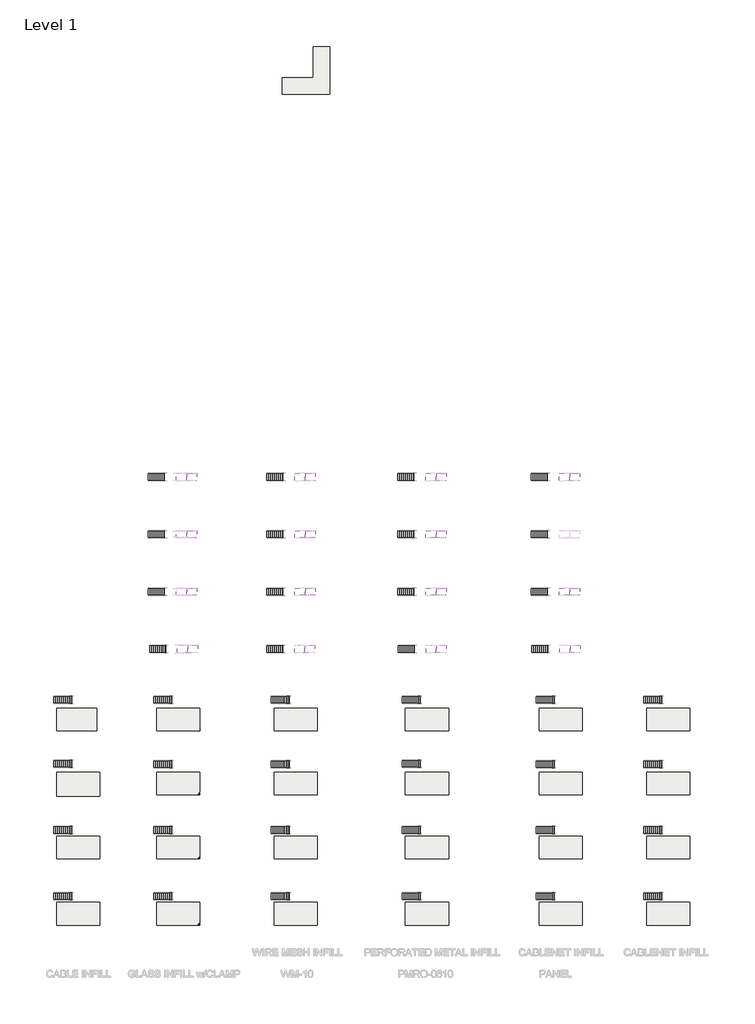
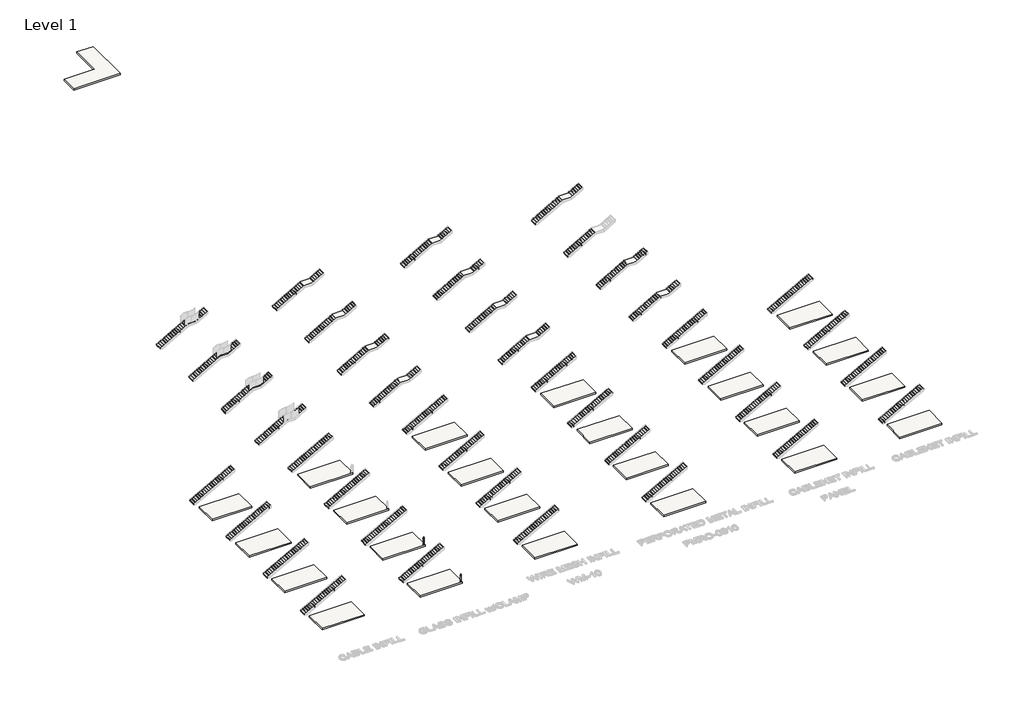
# One storey, part 1 of 8: 55 stair flights, 40 slabs, 2 railings.
"""IFC4 building model written with IfcOpenShell, lengths in millimetres."""

from ifc_helpers import new_model, si_unit, frame, origin, place, context, project, spatial, polyline, outline, extrude, faceted_brep, transform, mapped, element, save
from components import baluster_corner_panel_viva_standard_glass_eac9cc2a, baluster_corner_panel_viva_standard_glass_1654cc0c, baluster_corner_panel_viva_standard_glass_794ac712, baluster_corner_panel_viva_standard_glass_b3a1ee21, non_monolithic_landing_5bc720da, non_monolithic_landing_dd0db0fe, non_monolithic_landing_8fa44552, non_monolithic_landing_72148590, non_monolithic_landing_683afdd3, non_monolithic_landing_0306a4b2, non_monolithic_landing_b3eb6da1, non_monolithic_landing_67251964, non_monolithic_landing_ba321032, non_monolithic_landing_3c6b9b6c, non_monolithic_landing_cbc1462f, non_monolithic_landing_48cf3190, non_monolithic_landing_b9d26340, non_monolithic_landing_1514b0e3, non_monolithic_landing_d71ae8cf, stair_flight_867b6349, stair_flight_1623d5a6, stair_flight_93a57281, stair_flight_6248b28b, stair_flight_46d78ab3, stair_flight_bb475c89, stair_flight_662a255a, stair_flight_8d589d51, stair_flight_bfdabed0, stair_flight_90f3d1f1, stair_flight_547852eb, stair_flight_cebf5503, stair_flight_e243f775, stair_flight_977ebf85, stair_flight_2b8314ce, stair_flight_4459294c, stair_flight_17b7475d, stair_flight_253f1085, stair_flight_9bb0e321, stair_flight_100dd306, stair_flight_f3193430, stair_flight_ff462502, stair_flight_2fc1befa, stair_flight_8eaf772b, stair_flight_0474ce6d, stair_flight_b9e693a1, stair_flight_8b4d4a7e, stair_flight_51ef5601, stair_flight_70c68906, stair_flight_c7e7006c, stair_flight_5e9071b4, stair_flight_8c2f85dd, stair_flight_e91a5aed, stair_flight_12b60d69, stair_flight_54802832, stair_flight_86cf1904, stair_flight_2cf32423, stair_flight_7b8c4553, stair_flight_10bc530e, stair_flight_4cdf5e1c, stair_flight_d92b2248, stair_flight_d1960923, stair_flight_d3d5d3fa, stair_flight_b03ca2e3, stair_flight_ce59e505, stair_flight_fd0f363b, stair_flight_3b0c9d7e, stair_flight_b749c277, stair_flight_f96d4b74, stair_flight_75746dea, stair_flight_00fe024d, stair_flight_89541100, stair_flight_480f66c3, stair_flight_d066f2ad, stair_flight_4a6b0129

model = new_model("IFC4")

# Units and contexts
model_context = context("Model", 3, world=origin())
ifc_project = project(units=[si_unit("LENGTHUNIT", "METRE", prefix="MILLI")], contexts=[model_context])

# Site, building, storey
site = spatial("IfcSite", under=ifc_project)
building = spatial("IfcBuilding", under=site)
storey = spatial("IfcBuildingStorey", under=building, Name="Level 1", Elevation=0.0)

# Railings
placement = place(None, origin())
baluster_corner_panel_viva_standard_glass_shape = baluster_corner_panel_viva_standard_glass_eac9cc2a(model_context)
baluster_corner_panel_viva_standard_glass_2_shape = baluster_corner_panel_viva_standard_glass_1654cc0c(model_context)
element("IfcRailing", 1, ObjectType="Baluster-Corner-Panel-VIVA : Standard_Glass", at=placement, inside=storey, context=model_context, shape_type="MappedRepresentation", body=[
    mapped(baluster_corner_panel_viva_standard_glass_shape, transform((4037.3996558, -13274.5021935, 0.0), x_axis=(1.0, 0.0, 0.0), y_axis=(0.0, 1.0, 0.0), z_axis=(0.0, 0.0, 1.0))),
    mapped(baluster_corner_panel_viva_standard_glass_2_shape, transform((4037.3996558, -13274.5021935, 0.0), x_axis=(1.0, 0.0, 0.0), y_axis=(0.0, 1.0, 0.0), z_axis=(0.0, 0.0, 1.0))),
])
baluster_corner_panel_viva_standard_glass_3_shape = baluster_corner_panel_viva_standard_glass_794ac712(model_context)
baluster_corner_panel_viva_standard_glass_4_shape = baluster_corner_panel_viva_standard_glass_b3a1ee21(model_context)
element("IfcRailing", 2, ObjectType="Baluster-Corner-Panel-VIVA : Standard_Glass", at=placement, inside=storey, context=model_context, shape_type="MappedRepresentation", body=[
    mapped(baluster_corner_panel_viva_standard_glass_3_shape, transform((4037.3996558, -4841.7021935, 0.0), x_axis=(1.0, 0.0, 0.0), y_axis=(0.0, 1.0, 0.0), z_axis=(0.0, 0.0, 1.0))),
    mapped(baluster_corner_panel_viva_standard_glass_4_shape, transform((4037.3996558, -4841.7021935, 0.0), x_axis=(1.0, 0.0, 0.0), y_axis=(0.0, 1.0, 0.0), z_axis=(0.0, 0.0, 1.0))),
])

# Slabs
element("IfcSlab", 3, ObjectType="Generic - 7 3/4\"", at=placement, inside=storey, context=model_context, shape_type="Brep", body=[
    faceted_brep([(-9013.1757228, 11417.2188065, -196.088), (-14150.5822235, 11417.2188065, -196.088), (-14150.5822235, 14291.6143615, -196.088), (-9013.1757228, 14291.6143615, -196.088), (-9013.1757228, 11417.2188065, 0.0), (-9013.1757228, 14291.6143615, 0.0), (-14150.5822235, 14291.6143615, 0.0), (-14150.5822235, 11417.2188065, 0.0)], [[[0, 1, 2, 3]], [[4, 5, 6, 7]], [[1, 0, 4, 7]], [[3, 2, 6, 5]], [[0, 3, 5, 4]], [[2, 1, 7, 6]]]),
])
element("IfcSlab", 4, ObjectType="Generic - 7 3/4\"", at=placement, inside=storey, context=model_context, shape_type="Brep", body=[
    faceted_brep([(4137.4177765, 11417.2188065, -196.088), (-1348.9822235, 11417.2188065, -196.088), (-1348.9822235, 14312.8188065, -196.088), (4137.4177765, 14312.8188065, -196.088), (4137.4177765, 11417.2188065, 0.0), (4137.4177765, 14312.8188065, 0.0), (-1348.9822235, 14312.8188065, 0.0), (-1348.9822235, 11417.2188065, 0.0)], [[[0, 1, 2, 3]], [[4, 5, 6, 7]], [[1, 0, 4, 7]], [[3, 2, 6, 5]], [[0, 3, 5, 4]], [[2, 1, 7, 6]]]),
])
element("IfcSlab", 5, ObjectType="Generic - 7 3/4\"", at=placement, inside=storey, context=model_context, shape_type="Brep", body=[
    faceted_brep([(19072.6177765, 11417.2188065, -196.088), (13586.2177765, 11417.2188065, -196.088), (13586.2177765, 14312.8188065, -196.088), (19072.6177765, 14312.8188065, -196.088), (19072.6177765, 11417.2188065, 0.0), (19072.6177765, 14312.8188065, 0.0), (13586.2177765, 14312.8188065, 0.0), (13586.2177765, 11417.2188065, 0.0)], [[[0, 1, 2, 3]], [[4, 5, 6, 7]], [[1, 0, 4, 7]], [[3, 2, 6, 5]], [[0, 3, 5, 4]], [[2, 1, 7, 6]]]),
])
element("IfcSlab", 6, ObjectType="Generic - 7 3/4\"", at=placement, inside=storey, context=model_context, shape_type="Brep", body=[
    faceted_brep([(35836.6177765, 11417.2188065, -196.088), (30350.2177765, 11417.2188065, -196.088), (30350.2177765, 14312.8188065, -196.088), (35836.6177765, 14312.8188065, -196.088), (35836.6177765, 11417.2188065, 0.0), (35836.6177765, 14312.8188065, 0.0), (30350.2177765, 14312.8188065, 0.0), (30350.2177765, 11417.2188065, 0.0)], [[[0, 1, 2, 3]], [[4, 5, 6, 7]], [[1, 0, 4, 7]], [[3, 2, 6, 5]], [[0, 3, 5, 4]], [[2, 1, 7, 6]]]),
])
element("IfcSlab", 7, ObjectType="Generic - 7 3/4\"", at=placement, inside=storey, context=model_context, shape_type="Brep", body=[
    faceted_brep([(52905.4177765, 11417.2188065, -196.088), (47419.0177765, 11417.2188065, -196.088), (47419.0177765, 14312.8188065, -196.088), (52905.4177765, 14312.8188065, -196.088), (52905.4177765, 11417.2188065, 0.0), (52905.4177765, 14312.8188065, 0.0), (47419.0177765, 14312.8188065, 0.0), (47419.0177765, 11417.2188065, 0.0)], [[[0, 1, 2, 3]], [[4, 5, 6, 7]], [[1, 0, 4, 7]], [[3, 2, 6, 5]], [[0, 3, 5, 4]], [[2, 1, 7, 6]]]),
])
element("IfcSlab", 8, ObjectType="Generic - 7 3/4\"", at=placement, inside=storey, context=model_context, shape_type="Brep", body=[
    faceted_brep([(66621.4177765, 11417.2188065, -196.088), (61135.0177765, 11417.2188065, -196.088), (61135.0177765, 14312.8188065, -196.088), (66621.4177765, 14312.8188065, -196.088), (66621.4177765, 11417.2188065, 0.0), (66621.4177765, 14312.8188065, 0.0), (61135.0177765, 14312.8188065, 0.0), (61135.0177765, 11417.2188065, 0.0)], [[[0, 1, 2, 3]], [[4, 5, 6, 7]], [[1, 0, 4, 7]], [[3, 2, 6, 5]], [[0, 3, 5, 4]], [[2, 1, 7, 6]]]),
])
element("IfcSlab", 9, ObjectType="Generic - 7 3/4\"", at=placement, inside=storey, context=model_context, shape_type="Brep", body=[
    faceted_brep([(-8664.1822235, 3086.0188065, -196.088), (-14150.5822235, 3086.0188065, -196.088), (-14150.5822235, 6134.0188065, -196.088), (-8664.1822235, 6134.0188065, -196.088), (-8664.1822235, 3086.0188065, 0.0), (-8664.1822235, 6134.0188065, 0.0), (-14150.5822235, 6134.0188065, 0.0), (-14150.5822235, 3086.0188065, 0.0)], [[[0, 1, 2, 3]], [[4, 5, 6, 7]], [[1, 0, 4, 7]], [[3, 2, 6, 5]], [[0, 3, 5, 4]], [[2, 1, 7, 6]]]),
])
element("IfcSlab", 10, ObjectType="Generic - 7 3/4\"", at=placement, inside=storey, context=model_context, shape_type="Brep", body=[
    faceted_brep([(4137.4177765, 3238.4188065, -196.088), (-1348.9822235, 3238.4188065, -196.088), (-1348.9822235, 6134.0188065, -196.088), (4137.4177765, 6134.0188065, -196.088), (4137.4177765, 3238.4188065, 0.0), (4137.4177765, 6134.0188065, 0.0), (-1348.9822235, 6134.0188065, 0.0), (-1348.9822235, 3238.4188065, 0.0)], [[[0, 1, 2, 3]], [[4, 5, 6, 7]], [[1, 0, 4, 7]], [[3, 2, 6, 5]], [[0, 3, 5, 4]], [[2, 1, 7, 6]]]),
])
element("IfcSlab", 11, ObjectType="Generic - 7 3/4\"", at=placement, inside=storey, context=model_context, shape_type="Brep", body=[
    faceted_brep([(19072.6177765, 3238.4188065, -196.088), (13586.2177765, 3238.4188065, -196.088), (13586.2177765, 6134.0188065, -196.088), (19072.6177765, 6134.0188065, -196.088), (19072.6177765, 3238.4188065, 0.0), (19072.6177765, 6134.0188065, 0.0), (13586.2177765, 6134.0188065, 0.0), (13586.2177765, 3238.4188065, 0.0)], [[[0, 1, 2, 3]], [[4, 5, 6, 7]], [[1, 0, 4, 7]], [[3, 2, 6, 5]], [[0, 3, 5, 4]], [[2, 1, 7, 6]]]),
])
element("IfcSlab", 12, ObjectType="Generic - 7 3/4\"", at=placement, inside=storey, context=model_context, shape_type="Brep", body=[
    faceted_brep([(35836.6177765, 3238.4188065, -196.088), (30350.2177765, 3238.4188065, -196.088), (30350.2177765, 6134.0188065, -196.088), (35836.6177765, 6134.0188065, -196.088), (35836.6177765, 3238.4188065, 0.0), (35836.6177765, 6134.0188065, 0.0), (30350.2177765, 6134.0188065, 0.0), (30350.2177765, 3238.4188065, 0.0)], [[[0, 1, 2, 3]], [[4, 5, 6, 7]], [[1, 0, 4, 7]], [[3, 2, 6, 5]], [[0, 3, 5, 4]], [[2, 1, 7, 6]]]),
])
element("IfcSlab", 13, ObjectType="Generic - 7 3/4\"", at=placement, inside=storey, context=model_context, shape_type="Brep", body=[
    faceted_brep([(52905.4177765, 3238.4188065, -196.088), (47419.0177765, 3238.4188065, -196.088), (47419.0177765, 6134.0188065, -196.088), (52905.4177765, 6134.0188065, -196.088), (52905.4177765, 3238.4188065, 0.0), (52905.4177765, 6134.0188065, 0.0), (47419.0177765, 6134.0188065, 0.0), (47419.0177765, 3238.4188065, 0.0)], [[[0, 1, 2, 3]], [[4, 5, 6, 7]], [[1, 0, 4, 7]], [[3, 2, 6, 5]], [[0, 3, 5, 4]], [[2, 1, 7, 6]]]),
])
element("IfcSlab", 14, ObjectType="Generic - 7 3/4\"", at=placement, inside=storey, context=model_context, shape_type="Brep", body=[
    faceted_brep([(66621.4177765, 3238.4188065, -196.088), (61135.0177765, 3238.4188065, -196.088), (61135.0177765, 6134.0188065, -196.088), (66621.4177765, 6134.0188065, -196.088), (66621.4177765, 3238.4188065, 0.0), (66621.4177765, 6134.0188065, 0.0), (61135.0177765, 6134.0188065, 0.0), (61135.0177765, 3238.4188065, 0.0)], [[[0, 1, 2, 3]], [[4, 5, 6, 7]], [[1, 0, 4, 7]], [[3, 2, 6, 5]], [[0, 3, 5, 4]], [[2, 1, 7, 6]]]),
])
element("IfcSlab", 15, ObjectType="Generic - 7 3/4\"", at=placement, inside=storey, context=model_context, shape_type="Brep", body=[
    faceted_brep([(66621.4177765, -13373.1811935, -196.088), (61135.0177765, -13373.1811935, -196.088), (61135.0177765, -10477.5811935, -196.088), (66621.4177765, -10477.5811935, -196.088), (66621.4177765, -13373.1811935, 0.0), (66621.4177765, -10477.5811935, 0.0), (61135.0177765, -10477.5811935, 0.0), (61135.0177765, -13373.1811935, 0.0)], [[[0, 1, 2, 3]], [[4, 5, 6, 7]], [[1, 0, 4, 7]], [[3, 2, 6, 5]], [[0, 3, 5, 4]], [[2, 1, 7, 6]]]),
])
element("IfcSlab", 16, ObjectType="Generic - 7 3/4\"", at=placement, inside=storey, context=model_context, shape_type="Brep", body=[
    faceted_brep([(-8664.1822235, -4940.3811935, -196.088), (-14150.5822235, -4940.3811935, -196.088), (-14150.5822235, -2044.7811935, -196.088), (-8664.1822235, -2044.7811935, -196.088), (-8664.1822235, -4940.3811935, 0.0), (-8664.1822235, -2044.7811935, 0.0), (-14150.5822235, -2044.7811935, 0.0), (-14150.5822235, -4940.3811935, 0.0)], [[[0, 1, 2, 3]], [[4, 5, 6, 7]], [[1, 0, 4, 7]], [[3, 2, 6, 5]], [[0, 3, 5, 4]], [[2, 1, 7, 6]]]),
])
element("IfcSlab", 17, ObjectType="Generic - 7 3/4\"", at=placement, inside=storey, context=model_context, shape_type="Brep", body=[
    faceted_brep([(4137.4177765, -4940.3811935, -196.088), (-1348.9822235, -4940.3811935, -196.088), (-1348.9822235, -2044.7811935, -196.088), (4137.4177765, -2044.7811935, -196.088), (4137.4177765, -4940.3811935, 0.0), (4137.4177765, -2044.7811935, 0.0), (-1348.9822235, -2044.7811935, 0.0), (-1348.9822235, -4940.3811935, 0.0)], [[[0, 1, 2, 3]], [[4, 5, 6, 7]], [[1, 0, 4, 7]], [[3, 2, 6, 5]], [[0, 3, 5, 4]], [[2, 1, 7, 6]]]),
])
element("IfcSlab", 18, ObjectType="Generic - 7 3/4\"", at=placement, inside=storey, context=model_context, shape_type="Brep", body=[
    faceted_brep([(19072.6177765, -4940.3811935, -196.088), (13586.2177765, -4940.3811935, -196.088), (13586.2177765, -2044.7811935, -196.088), (19072.6177765, -2044.7811935, -196.088), (19072.6177765, -4940.3811935, 0.0), (19072.6177765, -2044.7811935, 0.0), (13586.2177765, -2044.7811935, 0.0), (13586.2177765, -4940.3811935, 0.0)], [[[0, 1, 2, 3]], [[4, 5, 6, 7]], [[1, 0, 4, 7]], [[3, 2, 6, 5]], [[0, 3, 5, 4]], [[2, 1, 7, 6]]]),
])
element("IfcSlab", 19, ObjectType="Generic - 7 3/4\"", at=placement, inside=storey, context=model_context, shape_type="Brep", body=[
    faceted_brep([(35836.6177765, -4940.3811935, -196.088), (30350.2177765, -4940.3811935, -196.088), (30350.2177765, -2044.7811935, -196.088), (35836.6177765, -2044.7811935, -196.088), (35836.6177765, -4940.3811935, 0.0), (35836.6177765, -2044.7811935, 0.0), (30350.2177765, -2044.7811935, 0.0), (30350.2177765, -4940.3811935, 0.0)], [[[0, 1, 2, 3]], [[4, 5, 6, 7]], [[1, 0, 4, 7]], [[3, 2, 6, 5]], [[0, 3, 5, 4]], [[2, 1, 7, 6]]]),
])
element("IfcSlab", 20, ObjectType="Generic - 7 3/4\"", at=placement, inside=storey, context=model_context, shape_type="Brep", body=[
    faceted_brep([(52905.4177765, -4940.3811935, -196.088), (47419.0177765, -4940.3811935, -196.088), (47419.0177765, -2044.7811935, -196.088), (52905.4177765, -2044.7811935, -196.088), (52905.4177765, -4940.3811935, 0.0), (52905.4177765, -2044.7811935, 0.0), (47419.0177765, -2044.7811935, 0.0), (47419.0177765, -4940.3811935, 0.0)], [[[0, 1, 2, 3]], [[4, 5, 6, 7]], [[1, 0, 4, 7]], [[3, 2, 6, 5]], [[0, 3, 5, 4]], [[2, 1, 7, 6]]]),
])
element("IfcSlab", 21, ObjectType="Generic - 7 3/4\"", at=placement, inside=storey, context=model_context, shape_type="Brep", body=[
    faceted_brep([(66621.4177765, -4940.3811935, -196.088), (61135.0177765, -4940.3811935, -196.088), (61135.0177765, -2044.7811935, -196.088), (66621.4177765, -2044.7811935, -196.088), (66621.4177765, -4940.3811935, 0.0), (66621.4177765, -2044.7811935, 0.0), (61135.0177765, -2044.7811935, 0.0), (61135.0177765, -4940.3811935, 0.0)], [[[0, 1, 2, 3]], [[4, 5, 6, 7]], [[1, 0, 4, 7]], [[3, 2, 6, 5]], [[0, 3, 5, 4]], [[2, 1, 7, 6]]]),
])
element("IfcSlab", 22, ObjectType="Generic - 7 3/4\"", at=placement, inside=storey, context=model_context, shape_type="SweptSolid", body=[
    extrude(outline(polyline([(-8664.1822235, -13373.1811935), (-14150.5822235, -13373.1811935), (-14150.5822235, -10477.5811935), (-8664.1822235, -10477.5811935), (-8664.1822235, -13373.1811935)])), frame((0.0, 0.0, -196.088), z_axis=(0.0, 0.0, 1.0), x_axis=(1.0, 0.0, 0.0)), (0.0, 0.0, 1.0), 196.088),
])
element("IfcSlab", 23, ObjectType="Generic - 7 3/4\"", at=placement, inside=storey, context=model_context, shape_type="Brep", body=[
    faceted_brep([(4137.4177765, -13373.1811935, -196.088), (-1348.9822235, -13373.1811935, -196.088), (-1348.9822235, -10477.5811935, -196.088), (4137.4177765, -10477.5811935, -196.088), (4137.4177765, -13373.1811935, 0.0), (4137.4177765, -10477.5811935, 0.0), (-1348.9822235, -10477.5811935, 0.0), (-1348.9822235, -13373.1811935, 0.0)], [[[0, 1, 2, 3]], [[4, 5, 6, 7]], [[1, 0, 4, 7]], [[3, 2, 6, 5]], [[0, 3, 5, 4]], [[2, 1, 7, 6]]]),
])
element("IfcSlab", 24, ObjectType="Generic - 7 3/4\"", at=placement, inside=storey, context=model_context, shape_type="Brep", body=[
    faceted_brep([(19072.6177765, -13373.1811935, -196.088), (13586.2177765, -13373.1811935, -196.088), (13586.2177765, -10477.5811935, -196.088), (19072.6177765, -10477.5811935, -196.088), (19072.6177765, -13373.1811935, 0.0), (19072.6177765, -10477.5811935, 0.0), (13586.2177765, -10477.5811935, 0.0), (13586.2177765, -13373.1811935, 0.0)], [[[0, 1, 2, 3]], [[4, 5, 6, 7]], [[1, 0, 4, 7]], [[3, 2, 6, 5]], [[0, 3, 5, 4]], [[2, 1, 7, 6]]]),
])
element("IfcSlab", 25, ObjectType="Generic - 7 3/4\"", at=placement, inside=storey, context=model_context, shape_type="Brep", body=[
    faceted_brep([(35836.6177765, -13373.1811935, -196.088), (30350.2177765, -13373.1811935, -196.088), (30350.2177765, -10477.5811935, -196.088), (35836.6177765, -10477.5811935, -196.088), (35836.6177765, -13373.1811935, 0.0), (35836.6177765, -10477.5811935, 0.0), (30350.2177765, -10477.5811935, 0.0), (30350.2177765, -13373.1811935, 0.0)], [[[0, 1, 2, 3]], [[4, 5, 6, 7]], [[1, 0, 4, 7]], [[3, 2, 6, 5]], [[0, 3, 5, 4]], [[2, 1, 7, 6]]]),
])
element("IfcSlab", 26, ObjectType="Generic - 7 3/4\"", at=placement, inside=storey, context=model_context, shape_type="Brep", body=[
    faceted_brep([(52905.4177765, -13373.1811935, -196.088), (47419.0177765, -13373.1811935, -196.088), (47419.0177765, -10477.5811935, -196.088), (52905.4177765, -10477.5811935, -196.088), (52905.4177765, -13373.1811935, 0.0), (52905.4177765, -10477.5811935, 0.0), (47419.0177765, -10477.5811935, 0.0), (47419.0177765, -13373.1811935, 0.0)], [[[0, 1, 2, 3]], [[4, 5, 6, 7]], [[1, 0, 4, 7]], [[3, 2, 6, 5]], [[0, 3, 5, 4]], [[2, 1, 7, 6]]]),
])
element("IfcSlab", 27, ObjectType="Generic - 7 3/4\"", at=placement, inside=storey, context=model_context, shape_type="Brep", body=[
    faceted_brep([(20719.8932676, 98684.7462248, -196.088), (20719.8932676, 92588.7462248, -196.088), (14649.2932676, 92588.7462248, -196.088), (14649.2932676, 94722.3462248, -196.088), (18586.2932676, 94722.3462248, -196.088), (18586.2932676, 98684.7462248, -196.088), (20719.8932676, 98684.7462248, 0.0), (18586.2932676, 98684.7462248, 0.0), (18586.2932676, 94722.3462248, 0.0), (14649.2932676, 94722.3462248, 0.0), (14649.2932676, 92588.7462248, 0.0), (20719.8932676, 92588.7462248, 0.0)], [[[0, 1, 2, 3, 4, 5]], [[6, 7, 8, 9, 10, 11]], [[1, 0, 6, 11]], [[2, 1, 11, 10]], [[3, 2, 10, 9]], [[4, 3, 9, 8]], [[5, 4, 8, 7]], [[0, 5, 7, 6]]]),
])
non_monolithic_landing_shape = non_monolithic_landing_5bc720da(model_context)
element("IfcSlab", 28, ObjectType="Non-Monolithic Landing", at=placement, inside=storey, context=model_context, shape_type="MappedRepresentation", body=[
    mapped(non_monolithic_landing_shape, transform((0.0, 0.0, 0.0), x_axis=(1.0, 0.0, 0.0), y_axis=(0.0, 1.0, 0.0), z_axis=(0.0, 0.0, 1.0))),
])
non_monolithic_landing_2_shape = non_monolithic_landing_dd0db0fe(model_context)
element("IfcSlab", 29, ObjectType="Non-Monolithic Landing", at=placement, inside=storey, context=model_context, shape_type="MappedRepresentation", body=[
    mapped(non_monolithic_landing_2_shape, transform((0.0, 0.0, 0.0), x_axis=(1.0, 0.0, 0.0), y_axis=(0.0, 1.0, 0.0), z_axis=(0.0, 0.0, 1.0))),
])
non_monolithic_landing_3_shape = non_monolithic_landing_8fa44552(model_context)
element("IfcSlab", 30, ObjectType="Non-Monolithic Landing", at=placement, inside=storey, context=model_context, shape_type="MappedRepresentation", body=[
    mapped(non_monolithic_landing_3_shape, transform((0.0, 0.0, 0.0), x_axis=(1.0, 0.0, 0.0), y_axis=(0.0, 1.0, 0.0), z_axis=(0.0, 0.0, 1.0))),
])
non_monolithic_landing_4_shape = non_monolithic_landing_72148590(model_context)
element("IfcSlab", 31, ObjectType="Non-Monolithic Landing", at=placement, inside=storey, context=model_context, shape_type="MappedRepresentation", body=[
    mapped(non_monolithic_landing_4_shape, transform((0.0, 0.0, 0.0), x_axis=(1.0, 0.0, 0.0), y_axis=(0.0, 1.0, 0.0), z_axis=(0.0, 0.0, 1.0))),
])
non_monolithic_landing_5_shape = non_monolithic_landing_683afdd3(model_context)
element("IfcSlab", 32, ObjectType="Non-Monolithic Landing", at=placement, inside=storey, context=model_context, shape_type="MappedRepresentation", body=[
    mapped(non_monolithic_landing_5_shape, transform((0.0, 0.0, 0.0), x_axis=(1.0, 0.0, 0.0), y_axis=(0.0, 1.0, 0.0), z_axis=(0.0, 0.0, 1.0))),
])
non_monolithic_landing_6_shape = non_monolithic_landing_0306a4b2(model_context)
element("IfcSlab", 33, ObjectType="Non-Monolithic Landing", at=placement, inside=storey, context=model_context, shape_type="MappedRepresentation", body=[
    mapped(non_monolithic_landing_6_shape, transform((0.0, 0.0, 0.0), x_axis=(1.0, 0.0, 0.0), y_axis=(0.0, 1.0, 0.0), z_axis=(0.0, 0.0, 1.0))),
])
non_monolithic_landing_7_shape = non_monolithic_landing_b3eb6da1(model_context)
element("IfcSlab", 34, ObjectType="Non-Monolithic Landing", at=placement, inside=storey, context=model_context, shape_type="MappedRepresentation", body=[
    mapped(non_monolithic_landing_7_shape, transform((0.0, 0.0, 0.0), x_axis=(1.0, 0.0, 0.0), y_axis=(0.0, 1.0, 0.0), z_axis=(0.0, 0.0, 1.0))),
])
non_monolithic_landing_8_shape = non_monolithic_landing_67251964(model_context)
element("IfcSlab", 35, ObjectType="Non-Monolithic Landing", at=placement, inside=storey, context=model_context, shape_type="MappedRepresentation", body=[
    mapped(non_monolithic_landing_8_shape, transform((0.0, 0.0, 0.0), x_axis=(1.0, 0.0, 0.0), y_axis=(0.0, 1.0, 0.0), z_axis=(0.0, 0.0, 1.0))),
])
non_monolithic_landing_9_shape = non_monolithic_landing_ba321032(model_context)
element("IfcSlab", 36, ObjectType="Non-Monolithic Landing", at=placement, inside=storey, context=model_context, shape_type="MappedRepresentation", body=[
    mapped(non_monolithic_landing_9_shape, transform((0.0, 0.0, 0.0), x_axis=(1.0, 0.0, 0.0), y_axis=(0.0, 1.0, 0.0), z_axis=(0.0, 0.0, 1.0))),
])
non_monolithic_landing_10_shape = non_monolithic_landing_3c6b9b6c(model_context)
element("IfcSlab", 37, ObjectType="Non-Monolithic Landing", at=placement, inside=storey, context=model_context, shape_type="MappedRepresentation", body=[
    mapped(non_monolithic_landing_10_shape, transform((0.0, 0.0, 0.0), x_axis=(1.0, 0.0, 0.0), y_axis=(0.0, 1.0, 0.0), z_axis=(0.0, 0.0, 1.0))),
])
non_monolithic_landing_11_shape = non_monolithic_landing_cbc1462f(model_context)
element("IfcSlab", 38, ObjectType="Non-Monolithic Landing", at=placement, inside=storey, context=model_context, shape_type="MappedRepresentation", body=[
    mapped(non_monolithic_landing_11_shape, transform((0.0, 0.0, 0.0), x_axis=(1.0, 0.0, 0.0), y_axis=(0.0, 1.0, 0.0), z_axis=(0.0, 0.0, 1.0))),
])
non_monolithic_landing_12_shape = non_monolithic_landing_48cf3190(model_context)
element("IfcSlab", 39, ObjectType="Non-Monolithic Landing", at=placement, inside=storey, context=model_context, shape_type="MappedRepresentation", body=[
    mapped(non_monolithic_landing_12_shape, transform((0.0, 0.0, 0.0), x_axis=(1.0, 0.0, 0.0), y_axis=(0.0, 1.0, 0.0), z_axis=(0.0, 0.0, 1.0))),
])
non_monolithic_landing_13_shape = non_monolithic_landing_b9d26340(model_context)
element("IfcSlab", 40, ObjectType="Non-Monolithic Landing", at=placement, inside=storey, context=model_context, shape_type="MappedRepresentation", body=[
    mapped(non_monolithic_landing_13_shape, transform((0.0, 0.0, 0.0), x_axis=(1.0, 0.0, 0.0), y_axis=(0.0, 1.0, 0.0), z_axis=(0.0, 0.0, 1.0))),
])
non_monolithic_landing_14_shape = non_monolithic_landing_1514b0e3(model_context)
element("IfcSlab", 41, ObjectType="Non-Monolithic Landing", at=placement, inside=storey, context=model_context, shape_type="MappedRepresentation", body=[
    mapped(non_monolithic_landing_14_shape, transform((0.0, 0.0, 0.0), x_axis=(1.0, 0.0, 0.0), y_axis=(0.0, 1.0, 0.0), z_axis=(0.0, 0.0, 1.0))),
])
non_monolithic_landing_15_shape = non_monolithic_landing_d71ae8cf(model_context)
element("IfcSlab", 42, ObjectType="Non-Monolithic Landing", at=placement, inside=storey, context=model_context, shape_type="MappedRepresentation", body=[
    mapped(non_monolithic_landing_15_shape, transform((0.0, 0.0, 0.0), x_axis=(1.0, 0.0, 0.0), y_axis=(0.0, 1.0, 0.0), z_axis=(0.0, 0.0, 1.0))),
])

# Stair flights
stair_flight_shape = stair_flight_867b6349(model_context)
element("IfcStairFlight", 43, ObjectType="2\" Tread 1/4\" Riser", at=placement, inside=storey, context=model_context, shape_type="MappedRepresentation", body=[
    mapped(stair_flight_shape, transform((0.0, 0.0, 0.0), x_axis=(1.0, 0.0, 0.0), y_axis=(0.0, 1.0, 0.0), z_axis=(0.0, 0.0, 1.0))),
])
stair_flight_2_shape = stair_flight_1623d5a6(model_context)
element("IfcStairFlight", 44, ObjectType="2\" Tread 1/4\" Riser", at=placement, inside=storey, context=model_context, shape_type="MappedRepresentation", body=[
    mapped(stair_flight_2_shape, transform((0.0, 0.0, 0.0), x_axis=(1.0, 0.0, 0.0), y_axis=(0.0, 1.0, 0.0), z_axis=(0.0, 0.0, 1.0))),
])
stair_flight_3_shape = stair_flight_93a57281(model_context)
element("IfcStairFlight", 45, ObjectType="2\" Tread 1/4\" Riser", at=placement, inside=storey, context=model_context, shape_type="MappedRepresentation", body=[
    mapped(stair_flight_3_shape, transform((0.0, 0.0, 0.0), x_axis=(1.0, 0.0, 0.0), y_axis=(0.0, 1.0, 0.0), z_axis=(0.0, 0.0, 1.0))),
])
stair_flight_4_shape = stair_flight_6248b28b(model_context)
element("IfcStairFlight", 46, ObjectType="2\" Tread 1/4\" Riser", at=placement, inside=storey, context=model_context, shape_type="MappedRepresentation", body=[
    mapped(stair_flight_4_shape, transform((0.0, 0.0, 0.0), x_axis=(1.0, 0.0, 0.0), y_axis=(0.0, 1.0, 0.0), z_axis=(0.0, 0.0, 1.0))),
])
stair_flight_5_shape = stair_flight_46d78ab3(model_context)
element("IfcStairFlight", 47, ObjectType="2\" Tread 1/4\" Riser", at=placement, inside=storey, context=model_context, shape_type="MappedRepresentation", body=[
    mapped(stair_flight_5_shape, transform((0.0, 0.0, 0.0), x_axis=(1.0, 0.0, 0.0), y_axis=(0.0, 1.0, 0.0), z_axis=(0.0, 0.0, 1.0))),
])
stair_flight_6_shape = stair_flight_bb475c89(model_context)
element("IfcStairFlight", 48, ObjectType="2\" Tread 1/4\" Riser", at=placement, inside=storey, context=model_context, shape_type="MappedRepresentation", body=[
    mapped(stair_flight_6_shape, transform((0.0, 0.0, 0.0), x_axis=(1.0, 0.0, 0.0), y_axis=(0.0, 1.0, 0.0), z_axis=(0.0, 0.0, 1.0))),
])
stair_flight_7_shape = stair_flight_662a255a(model_context)
element("IfcStairFlight", 49, ObjectType="2\" Tread 1/4\" Riser", at=placement, inside=storey, context=model_context, shape_type="MappedRepresentation", body=[
    mapped(stair_flight_7_shape, transform((0.0, 0.0, 0.0), x_axis=(1.0, 0.0, 0.0), y_axis=(0.0, 1.0, 0.0), z_axis=(0.0, 0.0, 1.0))),
])
stair_flight_8_shape = stair_flight_8d589d51(model_context)
element("IfcStairFlight", 50, ObjectType="2\" Tread 1/4\" Riser", at=placement, inside=storey, context=model_context, shape_type="MappedRepresentation", body=[
    mapped(stair_flight_8_shape, transform((0.0, 0.0, 0.0), x_axis=(1.0, 0.0, 0.0), y_axis=(0.0, 1.0, 0.0), z_axis=(0.0, 0.0, 1.0))),
])
stair_flight_9_shape = stair_flight_bfdabed0(model_context)
element("IfcStairFlight", 51, ObjectType="2\" Tread 1/4\" Riser", at=placement, inside=storey, context=model_context, shape_type="MappedRepresentation", body=[
    mapped(stair_flight_9_shape, transform((0.0, 0.0, 0.0), x_axis=(1.0, 0.0, 0.0), y_axis=(0.0, 1.0, 0.0), z_axis=(0.0, 0.0, 1.0))),
])
stair_flight_10_shape = stair_flight_90f3d1f1(model_context)
element("IfcStairFlight", 52, ObjectType="2\" Tread 1/4\" Riser", at=placement, inside=storey, context=model_context, shape_type="MappedRepresentation", body=[
    mapped(stair_flight_10_shape, transform((0.0, 0.0, 0.0), x_axis=(1.0, 0.0, 0.0), y_axis=(0.0, 1.0, 0.0), z_axis=(0.0, 0.0, 1.0))),
])
stair_flight_11_shape = stair_flight_547852eb(model_context)
element("IfcStairFlight", 53, ObjectType="2\" Tread 1/4\" Riser", at=placement, inside=storey, context=model_context, shape_type="MappedRepresentation", body=[
    mapped(stair_flight_11_shape, transform((0.0, 0.0, 0.0), x_axis=(1.0, 0.0, 0.0), y_axis=(0.0, 1.0, 0.0), z_axis=(0.0, 0.0, 1.0))),
])
stair_flight_12_shape = stair_flight_cebf5503(model_context)
element("IfcStairFlight", 54, ObjectType="2\" Tread 1/4\" Riser", at=placement, inside=storey, context=model_context, shape_type="MappedRepresentation", body=[
    mapped(stair_flight_12_shape, transform((0.0, 0.0, 0.0), x_axis=(1.0, 0.0, 0.0), y_axis=(0.0, 1.0, 0.0), z_axis=(0.0, 0.0, 1.0))),
])
stair_flight_13_shape = stair_flight_e243f775(model_context)
element("IfcStairFlight", 55, ObjectType="2\" Tread 1/4\" Riser", at=placement, inside=storey, context=model_context, shape_type="MappedRepresentation", body=[
    mapped(stair_flight_13_shape, transform((0.0, 0.0, 0.0), x_axis=(1.0, 0.0, 0.0), y_axis=(0.0, 1.0, 0.0), z_axis=(0.0, 0.0, 1.0))),
])
stair_flight_14_shape = stair_flight_977ebf85(model_context)
element("IfcStairFlight", 56, ObjectType="2\" Tread 1/4\" Riser", at=placement, inside=storey, context=model_context, shape_type="MappedRepresentation", body=[
    mapped(stair_flight_14_shape, transform((0.0, 0.0, 0.0), x_axis=(1.0, 0.0, 0.0), y_axis=(0.0, 1.0, 0.0), z_axis=(0.0, 0.0, 1.0))),
])
stair_flight_15_shape = stair_flight_2b8314ce(model_context)
element("IfcStairFlight", 57, ObjectType="2\" Tread 1/4\" Riser", at=placement, inside=storey, context=model_context, shape_type="MappedRepresentation", body=[
    mapped(stair_flight_15_shape, transform((0.0, 0.0, 0.0), x_axis=(1.0, 0.0, 0.0), y_axis=(0.0, 1.0, 0.0), z_axis=(0.0, 0.0, 1.0))),
])
stair_flight_16_shape = stair_flight_4459294c(model_context)
element("IfcStairFlight", 58, ObjectType="2\" Tread 1/4\" Riser", at=placement, inside=storey, context=model_context, shape_type="MappedRepresentation", body=[
    mapped(stair_flight_16_shape, transform((0.0, 0.0, 0.0), x_axis=(1.0, 0.0, 0.0), y_axis=(0.0, 1.0, 0.0), z_axis=(0.0, 0.0, 1.0))),
])
stair_flight_17_shape = stair_flight_17b7475d(model_context)
element("IfcStairFlight", 59, ObjectType="2\" Tread 1/4\" Riser", at=placement, inside=storey, context=model_context, shape_type="MappedRepresentation", body=[
    mapped(stair_flight_17_shape, transform((0.0, 0.0, 0.0), x_axis=(1.0, 0.0, 0.0), y_axis=(0.0, 1.0, 0.0), z_axis=(0.0, 0.0, 1.0))),
])
stair_flight_18_shape = stair_flight_253f1085(model_context)
element("IfcStairFlight", 60, ObjectType="2\" Tread 1/4\" Riser", at=placement, inside=storey, context=model_context, shape_type="MappedRepresentation", body=[
    mapped(stair_flight_18_shape, transform((0.0, 0.0, 0.0), x_axis=(1.0, 0.0, 0.0), y_axis=(0.0, 1.0, 0.0), z_axis=(0.0, 0.0, 1.0))),
])
stair_flight_19_shape = stair_flight_9bb0e321(model_context)
element("IfcStairFlight", 61, ObjectType="2\" Tread 1/4\" Riser", at=placement, inside=storey, context=model_context, shape_type="MappedRepresentation", body=[
    mapped(stair_flight_19_shape, transform((0.0, 0.0, 0.0), x_axis=(1.0, 0.0, 0.0), y_axis=(0.0, 1.0, 0.0), z_axis=(0.0, 0.0, 1.0))),
])
stair_flight_20_shape = stair_flight_100dd306(model_context)
element("IfcStairFlight", 62, ObjectType="2\" Tread 1/4\" Riser", at=placement, inside=storey, context=model_context, shape_type="MappedRepresentation", body=[
    mapped(stair_flight_20_shape, transform((0.0, 0.0, 0.0), x_axis=(1.0, 0.0, 0.0), y_axis=(0.0, 1.0, 0.0), z_axis=(0.0, 0.0, 1.0))),
])
stair_flight_21_shape = stair_flight_f3193430(model_context)
element("IfcStairFlight", 63, ObjectType="2\" Tread 1/4\" Riser", at=placement, inside=storey, context=model_context, shape_type="MappedRepresentation", body=[
    mapped(stair_flight_21_shape, transform((0.0, 0.0, 0.0), x_axis=(1.0, 0.0, 0.0), y_axis=(0.0, 1.0, 0.0), z_axis=(0.0, 0.0, 1.0))),
])
stair_flight_22_shape = stair_flight_ff462502(model_context)
element("IfcStairFlight", 64, ObjectType="2\" Tread 1/4\" Riser", at=placement, inside=storey, context=model_context, shape_type="MappedRepresentation", body=[
    mapped(stair_flight_22_shape, transform((0.0, 0.0, 0.0), x_axis=(1.0, 0.0, 0.0), y_axis=(0.0, 1.0, 0.0), z_axis=(0.0, 0.0, 1.0))),
])
stair_flight_23_shape = stair_flight_2fc1befa(model_context)
element("IfcStairFlight", 65, ObjectType="2\" Tread 1/4\" Riser", at=placement, inside=storey, context=model_context, shape_type="MappedRepresentation", body=[
    mapped(stair_flight_23_shape, transform((0.0, 0.0, 0.0), x_axis=(1.0, 0.0, 0.0), y_axis=(0.0, 1.0, 0.0), z_axis=(0.0, 0.0, 1.0))),
])
stair_flight_24_shape = stair_flight_8eaf772b(model_context)
element("IfcStairFlight", 66, ObjectType="2\" Tread 1/4\" Riser", at=placement, inside=storey, context=model_context, shape_type="MappedRepresentation", body=[
    mapped(stair_flight_24_shape, transform((0.0, 0.0, 0.0), x_axis=(1.0, 0.0, 0.0), y_axis=(0.0, 1.0, 0.0), z_axis=(0.0, 0.0, 1.0))),
])
stair_flight_25_shape = stair_flight_0474ce6d(model_context)
element("IfcStairFlight", 67, ObjectType="2\" Tread 1/4\" Riser", at=placement, inside=storey, context=model_context, shape_type="MappedRepresentation", body=[
    mapped(stair_flight_25_shape, transform((0.0, 0.0, 0.0), x_axis=(1.0, 0.0, 0.0), y_axis=(0.0, 1.0, 0.0), z_axis=(0.0, 0.0, 1.0))),
])
stair_flight_26_shape = stair_flight_b9e693a1(model_context)
element("IfcStairFlight", 68, ObjectType="2\" Tread 1/4\" Riser", at=placement, inside=storey, context=model_context, shape_type="MappedRepresentation", body=[
    mapped(stair_flight_26_shape, transform((0.0, 0.0, 0.0), x_axis=(1.0, 0.0, 0.0), y_axis=(0.0, 1.0, 0.0), z_axis=(0.0, 0.0, 1.0))),
])
stair_flight_27_shape = stair_flight_8b4d4a7e(model_context)
element("IfcStairFlight", 69, ObjectType="2\" Tread 1/4\" Riser", at=placement, inside=storey, context=model_context, shape_type="MappedRepresentation", body=[
    mapped(stair_flight_27_shape, transform((0.0, 0.0, 0.0), x_axis=(1.0, 0.0, 0.0), y_axis=(0.0, 1.0, 0.0), z_axis=(0.0, 0.0, 1.0))),
])
stair_flight_28_shape = stair_flight_51ef5601(model_context)
element("IfcStairFlight", 70, ObjectType="2\" Tread 1/4\" Riser", at=placement, inside=storey, context=model_context, shape_type="MappedRepresentation", body=[
    mapped(stair_flight_28_shape, transform((0.0, 0.0, 0.0), x_axis=(1.0, 0.0, 0.0), y_axis=(0.0, 1.0, 0.0), z_axis=(0.0, 0.0, 1.0))),
])
stair_flight_29_shape = stair_flight_70c68906(model_context)
element("IfcStairFlight", 71, ObjectType="2\" Tread 1/4\" Riser", at=placement, inside=storey, context=model_context, shape_type="MappedRepresentation", body=[
    mapped(stair_flight_29_shape, transform((0.0, 0.0, 0.0), x_axis=(1.0, 0.0, 0.0), y_axis=(0.0, 1.0, 0.0), z_axis=(0.0, 0.0, 1.0))),
])
stair_flight_30_shape = stair_flight_c7e7006c(model_context)
element("IfcStairFlight", 72, ObjectType="2\" Tread 1/4\" Riser", at=placement, inside=storey, context=model_context, shape_type="MappedRepresentation", body=[
    mapped(stair_flight_30_shape, transform((0.0, 0.0, 0.0), x_axis=(1.0, 0.0, 0.0), y_axis=(0.0, 1.0, 0.0), z_axis=(0.0, 0.0, 1.0))),
])
stair_flight_31_shape = stair_flight_5e9071b4(model_context)
element("IfcStairFlight", 73, ObjectType="2\" Tread 1/4\" Riser", at=placement, inside=storey, context=model_context, shape_type="MappedRepresentation", body=[
    mapped(stair_flight_31_shape, transform((0.0, 0.0, 0.0), x_axis=(1.0, 0.0, 0.0), y_axis=(0.0, 1.0, 0.0), z_axis=(0.0, 0.0, 1.0))),
])
stair_flight_32_shape = stair_flight_8c2f85dd(model_context)
element("IfcStairFlight", 74, ObjectType="2\" Tread 1/4\" Riser", at=placement, inside=storey, context=model_context, shape_type="MappedRepresentation", body=[
    mapped(stair_flight_32_shape, transform((0.0, 0.0, 0.0), x_axis=(1.0, 0.0, 0.0), y_axis=(0.0, 1.0, 0.0), z_axis=(0.0, 0.0, 1.0))),
])
stair_flight_33_shape = stair_flight_e91a5aed(model_context)
element("IfcStairFlight", 75, ObjectType="2\" Tread 1/4\" Riser", at=placement, inside=storey, context=model_context, shape_type="MappedRepresentation", body=[
    mapped(stair_flight_33_shape, transform((0.0, 0.0, 0.0), x_axis=(1.0, 0.0, 0.0), y_axis=(0.0, 1.0, 0.0), z_axis=(0.0, 0.0, 1.0))),
])
stair_flight_34_shape = stair_flight_12b60d69(model_context)
element("IfcStairFlight", 76, ObjectType="2\" Tread 1/4\" Riser", at=placement, inside=storey, context=model_context, shape_type="MappedRepresentation", body=[
    mapped(stair_flight_34_shape, transform((0.0, 0.0, 0.0), x_axis=(1.0, 0.0, 0.0), y_axis=(0.0, 1.0, 0.0), z_axis=(0.0, 0.0, 1.0))),
])
stair_flight_35_shape = stair_flight_54802832(model_context)
element("IfcStairFlight", 77, ObjectType="2\" Tread 1/4\" Riser", at=placement, inside=storey, context=model_context, shape_type="MappedRepresentation", body=[
    mapped(stair_flight_35_shape, transform((0.0, 0.0, 0.0), x_axis=(1.0, 0.0, 0.0), y_axis=(0.0, 1.0, 0.0), z_axis=(0.0, 0.0, 1.0))),
])
stair_flight_36_shape = stair_flight_86cf1904(model_context)
element("IfcStairFlight", 78, ObjectType="2\" Tread 1/4\" Riser", at=placement, inside=storey, context=model_context, shape_type="MappedRepresentation", body=[
    mapped(stair_flight_36_shape, transform((0.0, 0.0, 0.0), x_axis=(1.0, 0.0, 0.0), y_axis=(0.0, 1.0, 0.0), z_axis=(0.0, 0.0, 1.0))),
])
stair_flight_37_shape = stair_flight_2cf32423(model_context)
element("IfcStairFlight", 79, ObjectType="2\" Tread 1/4\" Riser", at=placement, inside=storey, context=model_context, shape_type="MappedRepresentation", body=[
    mapped(stair_flight_37_shape, transform((0.0, 0.0, 0.0), x_axis=(1.0, 0.0, 0.0), y_axis=(0.0, 1.0, 0.0), z_axis=(0.0, 0.0, 1.0))),
])
stair_flight_38_shape = stair_flight_7b8c4553(model_context)
element("IfcStairFlight", 80, ObjectType="2\" Tread 1/4\" Riser", at=placement, inside=storey, context=model_context, shape_type="MappedRepresentation", body=[
    mapped(stair_flight_38_shape, transform((0.0, 0.0, 0.0), x_axis=(1.0, 0.0, 0.0), y_axis=(0.0, 1.0, 0.0), z_axis=(0.0, 0.0, 1.0))),
])
stair_flight_39_shape = stair_flight_10bc530e(model_context)
element("IfcStairFlight", 81, ObjectType="2\" Tread 1/4\" Riser", at=placement, inside=storey, context=model_context, shape_type="MappedRepresentation", body=[
    mapped(stair_flight_39_shape, transform((0.0, 0.0, 0.0), x_axis=(1.0, 0.0, 0.0), y_axis=(0.0, 1.0, 0.0), z_axis=(0.0, 0.0, 1.0))),
])
stair_flight_40_shape = stair_flight_4cdf5e1c(model_context)
element("IfcStairFlight", 82, ObjectType="2\" Tread 1/4\" Riser", at=placement, inside=storey, context=model_context, shape_type="MappedRepresentation", body=[
    mapped(stair_flight_40_shape, transform((0.0, 0.0, 0.0), x_axis=(1.0, 0.0, 0.0), y_axis=(0.0, 1.0, 0.0), z_axis=(0.0, 0.0, 1.0))),
])
stair_flight_41_shape = stair_flight_d92b2248(model_context)
element("IfcStairFlight", 83, ObjectType="2\" Tread 1/4\" Riser", at=placement, inside=storey, context=model_context, shape_type="MappedRepresentation", body=[
    mapped(stair_flight_41_shape, transform((0.0, 0.0, 0.0), x_axis=(1.0, 0.0, 0.0), y_axis=(0.0, 1.0, 0.0), z_axis=(0.0, 0.0, 1.0))),
])
stair_flight_42_shape = stair_flight_d1960923(model_context)
element("IfcStairFlight", 84, ObjectType="2\" Tread 1/4\" Riser", at=placement, inside=storey, context=model_context, shape_type="MappedRepresentation", body=[
    mapped(stair_flight_42_shape, transform((0.0, 0.0, 0.0), x_axis=(1.0, 0.0, 0.0), y_axis=(0.0, 1.0, 0.0), z_axis=(0.0, 0.0, 1.0))),
])
stair_flight_43_shape = stair_flight_d3d5d3fa(model_context)
element("IfcStairFlight", 85, ObjectType="2\" Tread 1/4\" Riser", at=placement, inside=storey, context=model_context, shape_type="MappedRepresentation", body=[
    mapped(stair_flight_43_shape, transform((0.0, 0.0, 0.0), x_axis=(1.0, 0.0, 0.0), y_axis=(0.0, 1.0, 0.0), z_axis=(0.0, 0.0, 1.0))),
])
stair_flight_44_shape = stair_flight_b03ca2e3(model_context)
element("IfcStairFlight", 86, ObjectType="2\" Tread 1/4\" Riser", at=placement, inside=storey, context=model_context, shape_type="MappedRepresentation", body=[
    mapped(stair_flight_44_shape, transform((0.0, 0.0, 0.0), x_axis=(1.0, 0.0, 0.0), y_axis=(0.0, 1.0, 0.0), z_axis=(0.0, 0.0, 1.0))),
])
stair_flight_45_shape = stair_flight_ce59e505(model_context)
element("IfcStairFlight", 87, ObjectType="2\" Tread 1/4\" Riser", at=placement, inside=storey, context=model_context, shape_type="MappedRepresentation", body=[
    mapped(stair_flight_45_shape, transform((0.0, 0.0, 0.0), x_axis=(1.0, 0.0, 0.0), y_axis=(0.0, 1.0, 0.0), z_axis=(0.0, 0.0, 1.0))),
])
stair_flight_46_shape = stair_flight_fd0f363b(model_context)
element("IfcStairFlight", 88, ObjectType="2\" Tread 1/4\" Riser", at=placement, inside=storey, context=model_context, shape_type="MappedRepresentation", body=[
    mapped(stair_flight_46_shape, transform((0.0, 0.0, 0.0), x_axis=(1.0, 0.0, 0.0), y_axis=(0.0, 1.0, 0.0), z_axis=(0.0, 0.0, 1.0))),
])
stair_flight_47_shape = stair_flight_3b0c9d7e(model_context)
element("IfcStairFlight", 89, ObjectType="2\" Tread 1/4\" Riser", at=placement, inside=storey, context=model_context, shape_type="MappedRepresentation", body=[
    mapped(stair_flight_47_shape, transform((0.0, 0.0, 0.0), x_axis=(1.0, 0.0, 0.0), y_axis=(0.0, 1.0, 0.0), z_axis=(0.0, 0.0, 1.0))),
])
stair_flight_48_shape = stair_flight_b749c277(model_context)
element("IfcStairFlight", 90, ObjectType="2\" Tread 1/4\" Riser", at=placement, inside=storey, context=model_context, shape_type="MappedRepresentation", body=[
    mapped(stair_flight_48_shape, transform((0.0, 0.0, 0.0), x_axis=(1.0, 0.0, 0.0), y_axis=(0.0, 1.0, 0.0), z_axis=(0.0, 0.0, 1.0))),
])
stair_flight_49_shape = stair_flight_f96d4b74(model_context)
element("IfcStairFlight", 91, ObjectType="2\" Tread 1/4\" Riser", at=placement, inside=storey, context=model_context, shape_type="MappedRepresentation", body=[
    mapped(stair_flight_49_shape, transform((0.0, 0.0, 0.0), x_axis=(1.0, 0.0, 0.0), y_axis=(0.0, 1.0, 0.0), z_axis=(0.0, 0.0, 1.0))),
])
stair_flight_50_shape = stair_flight_75746dea(model_context)
element("IfcStairFlight", 92, ObjectType="2\" Tread 1/4\" Riser", at=placement, inside=storey, context=model_context, shape_type="MappedRepresentation", body=[
    mapped(stair_flight_50_shape, transform((0.0, 0.0, 0.0), x_axis=(1.0, 0.0, 0.0), y_axis=(0.0, 1.0, 0.0), z_axis=(0.0, 0.0, 1.0))),
])
stair_flight_51_shape = stair_flight_00fe024d(model_context)
element("IfcStairFlight", 93, ObjectType="2\" Tread 1/4\" Riser", at=placement, inside=storey, context=model_context, shape_type="MappedRepresentation", body=[
    mapped(stair_flight_51_shape, transform((0.0, 0.0, 0.0), x_axis=(1.0, 0.0, 0.0), y_axis=(0.0, 1.0, 0.0), z_axis=(0.0, 0.0, 1.0))),
])
stair_flight_52_shape = stair_flight_89541100(model_context)
element("IfcStairFlight", 94, ObjectType="2\" Tread 1/4\" Riser", at=placement, inside=storey, context=model_context, shape_type="MappedRepresentation", body=[
    mapped(stair_flight_52_shape, transform((0.0, 0.0, 0.0), x_axis=(1.0, 0.0, 0.0), y_axis=(0.0, 1.0, 0.0), z_axis=(0.0, 0.0, 1.0))),
])
stair_flight_53_shape = stair_flight_480f66c3(model_context)
element("IfcStairFlight", 95, ObjectType="2\" Tread 1/4\" Riser", at=placement, inside=storey, context=model_context, shape_type="MappedRepresentation", body=[
    mapped(stair_flight_53_shape, transform((0.0, 0.0, 0.0), x_axis=(1.0, 0.0, 0.0), y_axis=(0.0, 1.0, 0.0), z_axis=(0.0, 0.0, 1.0))),
])
stair_flight_54_shape = stair_flight_d066f2ad(model_context)
element("IfcStairFlight", 96, ObjectType="2\" Tread 1/4\" Riser", at=placement, inside=storey, context=model_context, shape_type="MappedRepresentation", body=[
    mapped(stair_flight_54_shape, transform((0.0, 0.0, 0.0), x_axis=(1.0, 0.0, 0.0), y_axis=(0.0, 1.0, 0.0), z_axis=(0.0, 0.0, 1.0))),
])
stair_flight_55_shape = stair_flight_4a6b0129(model_context)
element("IfcStairFlight", 97, ObjectType="2\" Tread 1/4\" Riser", at=placement, inside=storey, context=model_context, shape_type="MappedRepresentation", body=[
    mapped(stair_flight_55_shape, transform((0.0, 0.0, 0.0), x_axis=(1.0, 0.0, 0.0), y_axis=(0.0, 1.0, 0.0), z_axis=(0.0, 0.0, 1.0))),
])

save(model, "model.ifc")
